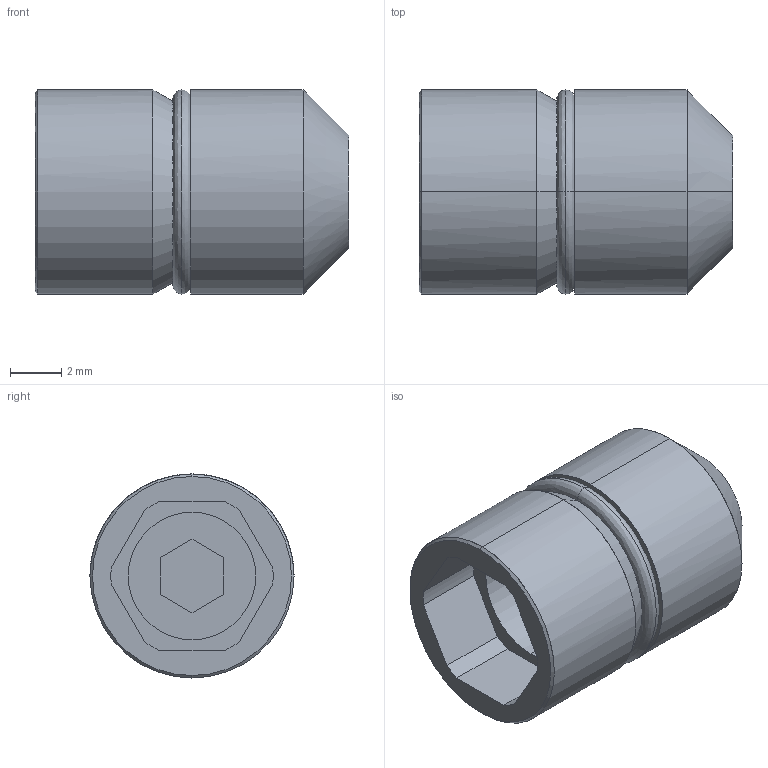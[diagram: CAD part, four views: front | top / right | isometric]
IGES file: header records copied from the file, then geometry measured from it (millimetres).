
Start section: START RECORD GO HERE.
Global section: file name: TRI-8C.igs; native system: DASSAULT SYSTEMES CATIA V5 R20 - www.3ds.com; preprocessor: CATIA Version 5 Release 20 ; author: Utente; organization: NB04-ASUS; date: 20210222.201311; units: millimetre
Bounding box: 12.3 x 8 x 8 mm (x, y, z)
Surface area: 521.3 mm2 (no closed solid volume)
Topology: 0 solids, 0 shells, 40 faces, 224 edges, 224 vertices
Faces by surface type: revolution 22, plane 18
